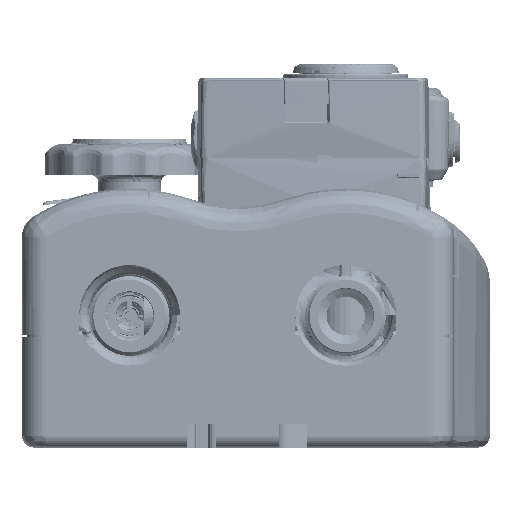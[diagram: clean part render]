
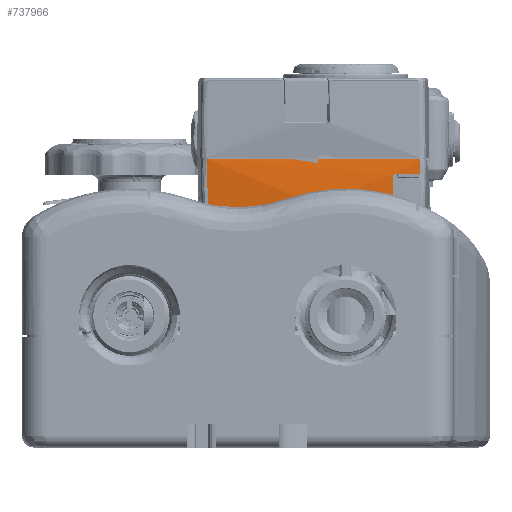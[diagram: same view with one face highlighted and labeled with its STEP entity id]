
A CAD part, front view. The second image highlights one B-rep face of the part: STEP entity #737966.
In plain terms, the highlighted free-form (B-spline) face has degree [2, 2] with [3, 3] control points.
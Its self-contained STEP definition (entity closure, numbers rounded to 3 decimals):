
#35003 = VERTEX_POINT ( 'NONE', #386345 ) ;
#49934 = EDGE_CURVE ( 'NONE', #836672, #148674, #383224, .T. ) ;
#65499 = EDGE_LOOP ( 'NONE', ( #105827, #294938, #346077, #686183, #205150, #598409, #626435 ) ) ;
#87584 = EDGE_CURVE ( 'NONE', #772896, #302784, #346353, .T. ) ;
#105705 =( BOUNDED_CURVE ( )  B_SPLINE_CURVE ( 2, ( #410405, #336666, #788621 ),
 .UNSPECIFIED., .F., .F. ) 
 B_SPLINE_CURVE_WITH_KNOTS ( ( 3, 3 ),
 ( 0., 1. ),
 .UNSPECIFIED. ) 
 CURVE ( )  GEOMETRIC_REPRESENTATION_ITEM ( )  RATIONAL_B_SPLINE_CURVE ( ( 0.948, 0.948, 0.948 ) ) 
 REPRESENTATION_ITEM ( '' )  );
#105827 = ORIENTED_EDGE ( 'NONE', *, *, #581336, .T. ) ;
#125571 = FACE_OUTER_BOUND ( 'NONE', #65499, .T. ) ;
#140080 = CARTESIAN_POINT ( 'NONE',  ( -106.22, 191.339, -132.841 ) ) ;
#142810 = CARTESIAN_POINT ( 'NONE',  ( -77.454, 182.988, -27.911 ) ) ;
#148674 = VERTEX_POINT ( 'NONE', #657363 ) ;
#172825 = CARTESIAN_POINT ( 'NONE',  ( -110.38, 179.119, 9.339 ) ) ;
#195624 = EDGE_CURVE ( 'NONE', #35003, #836672, #105705, .T. ) ;
#205150 = ORIENTED_EDGE ( 'NONE', *, *, #87584, .T. ) ;
#213678 = CARTESIAN_POINT ( 'NONE',  ( -26.647, 114.369, 254.377 ) ) ;
#218531 = CARTESIAN_POINT ( 'NONE',  ( -185.968, 113.138, 254.377 ) ) ;
#219053 = CARTESIAN_POINT ( 'NONE',  ( -154.8, 182.646, -3.087 ) ) ;
#219932 = CARTESIAN_POINT ( 'NONE',  ( -77.165, 181.926, 2.843 ) ) ;
#275441 = VERTEX_POINT ( 'NONE', #695137 ) ;
#278899 =( BOUNDED_CURVE ( )  B_SPLINE_CURVE ( 2, ( #737225, #962946, #290059 ),
 .UNSPECIFIED., .F., .F. ) 
 B_SPLINE_CURVE_WITH_KNOTS ( ( 3, 3 ),
 ( 0., 1. ),
 .UNSPECIFIED. ) 
 CURVE ( )  GEOMETRIC_REPRESENTATION_ITEM ( )  RATIONAL_B_SPLINE_CURVE ( ( 0.957, 0.955, 0.956 ) ) 
 REPRESENTATION_ITEM ( '' )  );
#287464 = CARTESIAN_POINT ( 'NONE',  ( -26.65, 423.137, 504.429 ) ) ;
#290059 = CARTESIAN_POINT ( 'NONE',  ( -77.454, 182.988, -27.911 ) ) ;
#294938 = ORIENTED_EDGE ( 'NONE', *, *, #195624, .T. ) ;
#297675 = CARTESIAN_POINT ( 'NONE',  ( -65.968, 182.684, 5.073 ) ) ;
#298515 = CARTESIAN_POINT ( 'NONE',  ( -76.986, 181.935, 2.939 ) ) ;
#302784 = VERTEX_POINT ( 'NONE', #725881 ) ;
#320086 = CARTESIAN_POINT ( 'NONE',  ( -154.808, 182.638, 9.339 ) ) ;
#336666 = CARTESIAN_POINT ( 'NONE',  ( -71.484, 182.266, 2.939 ) ) ;
#346077 = ORIENTED_EDGE ( 'NONE', *, *, #49934, .T. ) ;
#346353 = B_SPLINE_CURVE_WITH_KNOTS ( 'NONE', 3,
 ( #892162, #219053, #371294, #499566 ),
 .UNSPECIFIED., .F., .F.,
 ( 4, 4 ),
 ( 0., 1. ),
 .UNSPECIFIED. ) ;
#356260 = CARTESIAN_POINT ( 'NONE',  ( -26.648, 203.403, -132.841 ) ) ;
#371294 = CARTESIAN_POINT ( 'NONE',  ( -154.454, 182.992, -15.514 ) ) ;
#377639 = EDGE_CURVE ( 'NONE', #302784, #826176, #278899, .T. ) ;
#383224 = B_SPLINE_CURVE_WITH_KNOTS ( 'NONE', 3,
 ( #543172, #297675, #842776, #469434 ),
 .UNSPECIFIED., .F., .F.,
 ( 4, 4 ),
 ( 0., 1. ),
 .UNSPECIFIED. ) ;
#386345 = CARTESIAN_POINT ( 'NONE',  ( -76.986, 181.935, 2.939 ) ) ;
#387845 = CARTESIAN_POINT ( 'NONE',  ( -65.989, 182.705, 2.939 ) ) ;
#410405 = CARTESIAN_POINT ( 'NONE',  ( -76.986, 181.935, 2.939 ) ) ;
#469434 = CARTESIAN_POINT ( 'NONE',  ( -65.955, 182.671, 9.339 ) ) ;
#499566 = CARTESIAN_POINT ( 'NONE',  ( -153.77, 183.674, -27.911 ) ) ;
#516298 = CARTESIAN_POINT ( 'NONE',  ( -77.186, 181.926, 2.741 ) ) ;
#533101 = CARTESIAN_POINT ( 'NONE',  ( -77.454, 182.988, -27.911 ) ) ;
#534335 = CARTESIAN_POINT ( 'NONE',  ( -77.186, 181.925, 2.795 ) ) ;
#543172 = CARTESIAN_POINT ( 'NONE',  ( -65.989, 182.705, 2.939 ) ) ;
#545778 =( BOUNDED_CURVE ( )  B_SPLINE_CURVE ( 2, ( #831310, #172825, #320086 ),
 .UNSPECIFIED., .F., .F. ) 
 B_SPLINE_CURVE_WITH_KNOTS ( ( 3, 3 ),
 ( 0., 1. ),
 .UNSPECIFIED. ) 
 CURVE ( )  GEOMETRIC_REPRESENTATION_ITEM ( )  RATIONAL_B_SPLINE_CURVE ( ( 0.947, 0.944, 0.947 ) ) 
 REPRESENTATION_ITEM ( '' )  );
#581336 = EDGE_CURVE ( 'NONE', #275441, #35003, #857135, .T. ) ;
#592208 = CARTESIAN_POINT ( 'NONE',  ( -106.222, 411.074, 504.429 ) ) ;
#598409 = ORIENTED_EDGE ( 'NONE', *, *, #377639, .T. ) ;
#626435 = ORIENTED_EDGE ( 'NONE', *, *, #891462, .T. ) ;
#646374 = CARTESIAN_POINT ( 'NONE',  ( -185.968, 202.172, -132.841 ) ) ;
#657363 = CARTESIAN_POINT ( 'NONE',  ( -65.955, 182.671, 9.339 ) ) ;
#667721 =( BOUNDED_SURFACE ( )  B_SPLINE_SURFACE ( 2, 2, ( 
 ( #739484, #592208, #287464 ),
 ( #218531, #729810, #213678 ),
 ( #646374, #140080, #356260 ) ),
 .UNSPECIFIED., .F., .F., .T. ) 
 B_SPLINE_SURFACE_WITH_KNOTS ( ( 3, 3 ),
 ( 3, 3 ),
 ( -0.89, 0.226 ),
 ( 0.103, 0.389 ),
 .UNSPECIFIED. ) 
 GEOMETRIC_REPRESENTATION_ITEM ( )  RATIONAL_B_SPLINE_SURFACE ( (
 ( 1., 0.99, 1.),
 ( 0.848, 0.84, 0.848),
 ( 1., 0.99, 1.) ) ) 
 REPRESENTATION_ITEM ( '' )  SURFACE ( )  );
#672067 = CARTESIAN_POINT ( 'NONE',  ( -77.089, 181.929, 2.92 ) ) ;
#686183 = ORIENTED_EDGE ( 'NONE', *, *, #838126, .T. ) ;
#695137 = CARTESIAN_POINT ( 'NONE',  ( -77.186, 181.926, 2.741 ) ) ;
#725881 = CARTESIAN_POINT ( 'NONE',  ( -153.77, 183.674, -27.911 ) ) ;
#729810 = CARTESIAN_POINT ( 'NONE',  ( -106.219, 102.305, 254.377 ) ) ;
#737225 = CARTESIAN_POINT ( 'NONE',  ( -153.77, 183.674, -27.911 ) ) ;
#737966 = ADVANCED_FACE ( 'NONE', ( #125571 ), #667721, .T. ) ;
#739484 = CARTESIAN_POINT ( 'NONE',  ( -185.971, 421.907, 504.429 ) ) ;
#755382 = CARTESIAN_POINT ( 'NONE',  ( -77.186, 181.926, 2.741 ) ) ;
#772896 = VERTEX_POINT ( 'NONE', #858321 ) ;
#788621 = CARTESIAN_POINT ( 'NONE',  ( -65.989, 182.705, 2.939 ) ) ;
#801340 = CARTESIAN_POINT ( 'NONE',  ( -77.275, 182.034, -7.528 ) ) ;
#826176 = VERTEX_POINT ( 'NONE', #533101 ) ;
#831310 = CARTESIAN_POINT ( 'NONE',  ( -65.955, 182.671, 9.339 ) ) ;
#836672 = VERTEX_POINT ( 'NONE', #387845 ) ;
#838126 = EDGE_CURVE ( 'NONE', #148674, #772896, #545778, .T. ) ;
#842776 = CARTESIAN_POINT ( 'NONE',  ( -65.956, 182.673, 7.206 ) ) ;
#857135 = B_SPLINE_CURVE_WITH_KNOTS ( 'NONE', 3,
 ( #755382, #534335, #219932, #672067, #971449, #298515 ),
 .UNSPECIFIED., .F., .F.,
 ( 4, 2, 4 ),
 ( 0., 0.5, 1. ),
 .UNSPECIFIED. ) ;
#858321 = CARTESIAN_POINT ( 'NONE',  ( -154.808, 182.638, 9.339 ) ) ;
#860713 = B_SPLINE_CURVE_WITH_KNOTS ( 'NONE', 3,
 ( #142810, #884628, #801340, #516298 ),
 .UNSPECIFIED., .F., .F.,
 ( 4, 4 ),
 ( 0., 1. ),
 .UNSPECIFIED. ) ;
#884628 = CARTESIAN_POINT ( 'NONE',  ( -77.364, 182.391, -17.751 ) ) ;
#891462 = EDGE_CURVE ( 'NONE', #826176, #275441, #860713, .T. ) ;
#892162 = CARTESIAN_POINT ( 'NONE',  ( -154.808, 182.638, 9.339 ) ) ;
#962946 = CARTESIAN_POINT ( 'NONE',  ( -115.635, 180.725, -27.911 ) ) ;
#971449 = CARTESIAN_POINT ( 'NONE',  ( -77.042, 181.932, 2.939 ) ) ;
